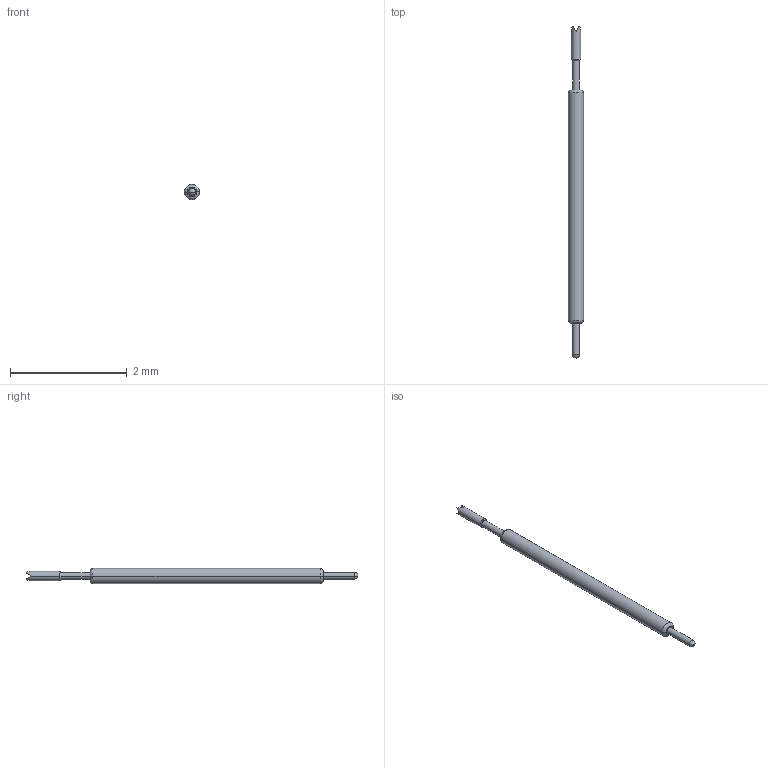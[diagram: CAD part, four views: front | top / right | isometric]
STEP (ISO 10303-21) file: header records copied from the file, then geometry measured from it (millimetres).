
FILE_DESCRIPTION((''),'2;1');
FILE_NAME('JD-SX026-064','2020-11-02T',('lenovo'),(''),'PRO/ENGINEER BY PARAMETRIC TECHNOLOGY CORPORATION, 2008380','PRO/ENGINEER BY PARAMETRIC TECHNOLOGY CORPORATION, 2008380','');
FILE_SCHEMA(('CONFIG_CONTROL_DESIGN'));
Length unit declared in the file: millimetre
Products named in the file (1): JD-SX026-064
Bounding box: 0.26 x 5.7 x 0.26 mm (x, y, z)
Volume: 0.2 mm3; surface area: 4 mm2
Topology: 1 solids, 1 shells, 26 faces, 52 edges, 28 vertices
Faces by surface type: plane 10, cylinder 8, torus 4, cone 2, sphere 2
Entity records: 698 total; most frequent: CARTESIAN_POINT 130, DIRECTION 118, ORIENTED_EDGE 100, AXIS2_PLACEMENT_3D 50, EDGE_CURVE 50, VERTEX_POINT 28, EDGE_LOOP 28, FACE_OUTER_BOUND 26
